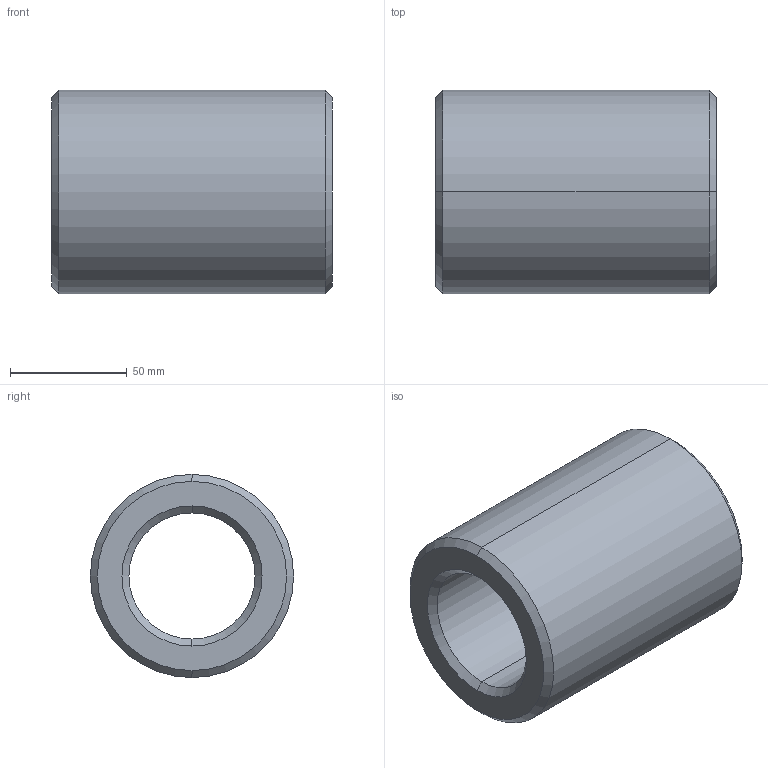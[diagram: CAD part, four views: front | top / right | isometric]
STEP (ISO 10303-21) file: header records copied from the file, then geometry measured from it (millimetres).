
FILE_DESCRIPTION (( 'STEP AP203' ), '1' );
FILE_NAME ('Muffe M56.STEP', '2018-02-22T09:23:33', ( 'install' ), ( 'Hewlett-Packard Company' ), 'SwSTEP 2.0', 'SolidWorks 2017', '' );
FILE_SCHEMA (( 'CONFIG_CONTROL_DESIGN' ));
Length unit declared in the file: millimetre
Products named in the file (1): Muffe M56
Bounding box: 120 x 87 x 87 mm (x, y, z)
Volume: 434548.2 mm3; surface area: 58907.8 mm2
Topology: 1 solids, 1 shells, 14 faces, 28 edges, 16 vertices
Faces by surface type: cone 8, cylinder 4, plane 2
Entity records: 445 total; most frequent: DIRECTION 74, CARTESIAN_POINT 59, ORIENTED_EDGE 56, AXIS2_PLACEMENT_3D 31, EDGE_CURVE 28, EDGE_LOOP 16, CIRCLE 16, VERTEX_POINT 16
